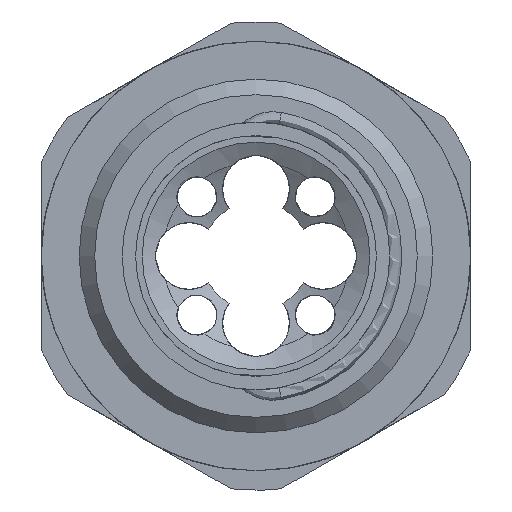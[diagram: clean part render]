
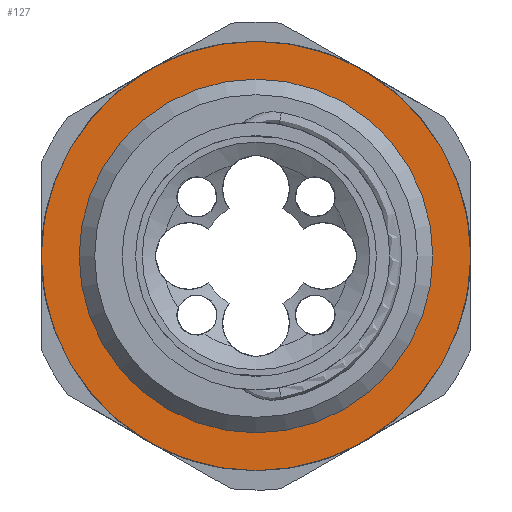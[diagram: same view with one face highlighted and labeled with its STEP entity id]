
A CAD part, front view. The second image highlights one B-rep face of the part: STEP entity #127.
In plain terms, the highlighted planar face has unit normal (0, -1, 0).
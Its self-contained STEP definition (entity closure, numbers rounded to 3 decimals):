
#127 = ADVANCED_FACE( '', ( #351, #352 ), #353, .F. );
#351 = FACE_BOUND( '', #632, .T. );
#352 = FACE_OUTER_BOUND( '', #633, .T. );
#353 = PLANE( '', #634 );
#632 = EDGE_LOOP( '', ( #1160 ) );
#633 = EDGE_LOOP( '', ( #1161 ) );
#634 = AXIS2_PLACEMENT_3D( '', #1162, #1163, #1164 );
#1160 = ORIENTED_EDGE( '', *, *, #1583, .F. );
#1161 = ORIENTED_EDGE( '', *, *, #1584, .T. );
#1162 = CARTESIAN_POINT( '', ( 16.05, 9., 0. ) );
#1163 = DIRECTION( '', ( 0., 1., 0. ) );
#1164 = DIRECTION( '', ( 0., 0., 1. ) );
#1583 = EDGE_CURVE( '', #1905, #1905, #1906, .T. );
#1584 = EDGE_CURVE( '', #1907, #1907, #1908, .T. );
#1905 = VERTEX_POINT( '', #4653 );
#1906 = CIRCLE( '', #4654, 13.221 );
#1907 = VERTEX_POINT( '', #4655 );
#1908 = CIRCLE( '', #4656, 16.05 );
#4653 = CARTESIAN_POINT( '', ( 0., 9., -13.221 ) );
#4654 = AXIS2_PLACEMENT_3D( '', #5017, #5018, #5019 );
#4655 = CARTESIAN_POINT( '', ( 0., 9., -16.05 ) );
#4656 = AXIS2_PLACEMENT_3D( '', #5020, #5021, #5022 );
#5017 = CARTESIAN_POINT( '', ( 0., 9., 0. ) );
#5018 = DIRECTION( '', ( 0., -1., 0. ) );
#5019 = DIRECTION( '', ( 0., 0., -1. ) );
#5020 = CARTESIAN_POINT( '', ( 0., 9., 0. ) );
#5021 = DIRECTION( '', ( 0., -1., 0. ) );
#5022 = DIRECTION( '', ( 0., 0., -1. ) );
